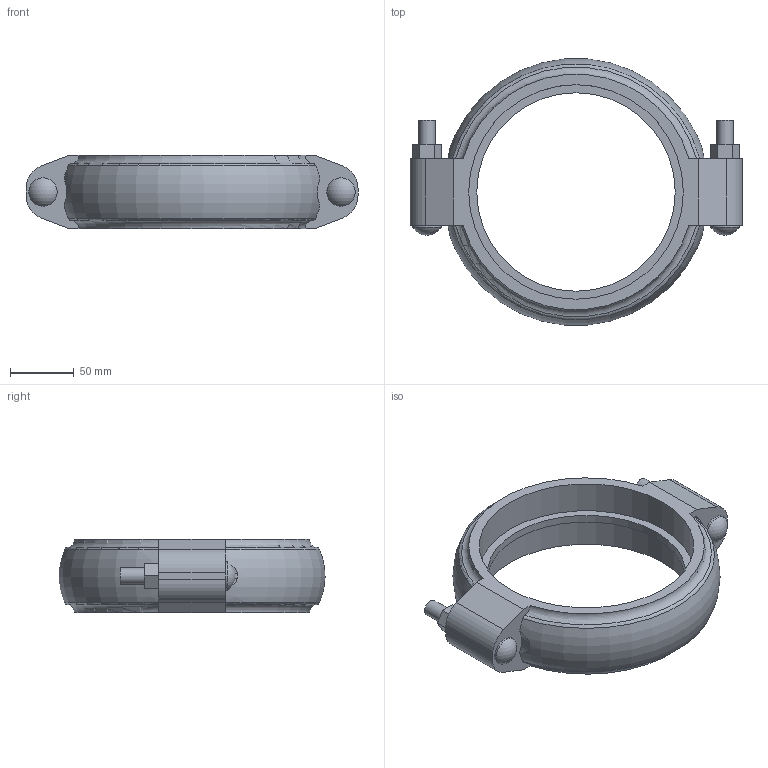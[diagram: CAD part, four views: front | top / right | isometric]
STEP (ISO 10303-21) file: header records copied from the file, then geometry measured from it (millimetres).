
FILE_DESCRIPTION(/* description */ ('VIC STRENGTHIN COUPLING STYLE E497 (RIGID)','CAx-IF Rec.Pracs.---Representation and Presentation of Product Manufacturing Information (PMI)---4.0---2014-10-13'),/* implementation_level */ '2;1');
FILE_NAME(/* name */ 'C:\Users\Vjadhav\AppData\Roaming\Autodesk\ApplicationPlugins\Back Up\Victaulic_SS-StrengThin 100_Coupling Rigid_Style E497 (ST1)\Victaulic_SS-StrengThin 100_Coupling Rigid_Style E497 (ST1)_6 (150).stp',/* time_stamp */ '2020-07-07T19:35:46+05:00',/* author */ ('jheald'),/* organization */ ('Victaulic'),/* preprocessor_version */ 'ST-DEVELOPER v17.2',/* originating_system */ 'Autodesk Inventor 2019',/* authorisation */ '');
FILE_SCHEMA (('AP242_MANAGED_MODEL_BASED_3D_ENGINEERING_MIM_LF { 1 0 10303 442 1 1 4 }'));
Length unit declared in the file: inch
Products named in the file (1): E497-06.0
Bounding box: 260.35 x 208.73 x 57.91 mm (x, y, z)
Volume: 724038.7 mm3; surface area: 112291.4 mm2
Topology: 1 solids, 3 shells, 79 faces, 211 edges, 142 vertices
Faces by surface type: plane 42, cylinder 25, torus 10, sphere 2
Full cylindrical faces by diameter (mm): 12.7 x4, 22.225 x2, 155.575 x1, 168.275 x2
Entity records: 2980 total; most frequent: CARTESIAN_POINT 774, DIRECTION 427, ORIENTED_EDGE 422, EDGE_CURVE 211, AXIS2_PLACEMENT_3D 159, VERTEX_POINT 142, LINE 109, VECTOR 109
